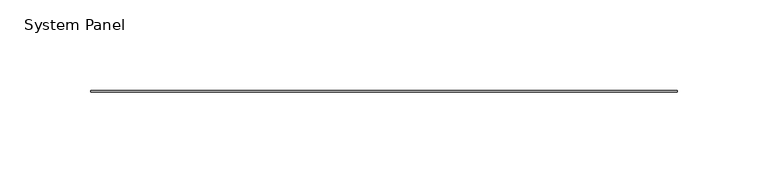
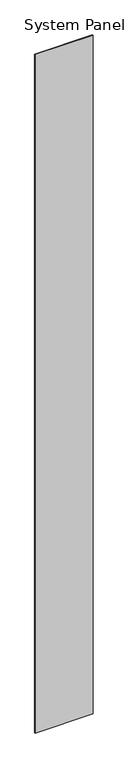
"""IFC4 building model written with IfcOpenShell, lengths in millimetres: plate geometry, System Panel : Stratco_Hiland_Tray."""

from ifc_helpers import new_model, si_unit, origin, origin_with_axes, place, context, project, spatial, polyline, outline, extrude, source, transform, mapped, element, save


def system_panel_0c774827(model_context):
    return source(origin(), model_context, "Body", "SweptSolid", [
        extrude(outline(polyline([(161.8699777, 2.5), (-161.8699777, 2.5), (-161.8699777, 3.5), (161.8699777, 3.5), (161.8699777, 2.5)])), origin_with_axes(), (0.0, 0.0, 1.0), 4000.0),
    ])


if __name__ == "__main__":
    model = new_model("IFC4")
    model_context = context("Model", 3, world=origin())
    ifc_project = project(units=[si_unit("LENGTHUNIT", "METRE", prefix="MILLI")], contexts=[model_context])
    site = spatial("IfcSite", under=ifc_project)
    building = spatial("IfcBuilding", under=site)
    placement = place(None, origin())
    system_panel_shape = system_panel_0c774827(model_context)
    element("IfcPlate", 1, ObjectType="System Panel : Stratco_Hiland_Tray", at=placement, inside=building, context=model_context, shape_type="MappedRepresentation", body=[
        mapped(system_panel_shape, transform((0.0, 0.0, 0.0), x_axis=(1.0, 0.0, 0.0), y_axis=(0.0, 1.0, 0.0), z_axis=(0.0, 0.0, 1.0))),
    ])
    save(model, "model.ifc")
